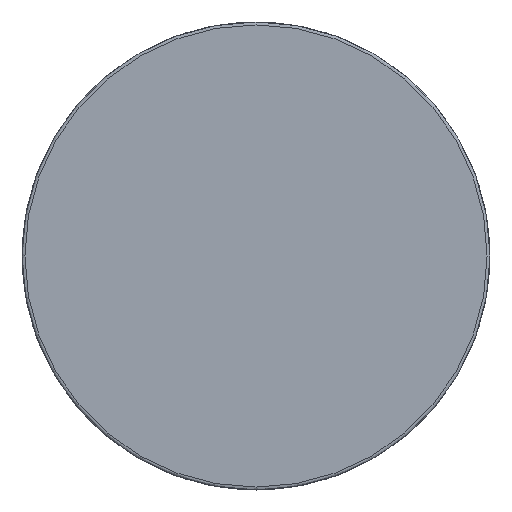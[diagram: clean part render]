
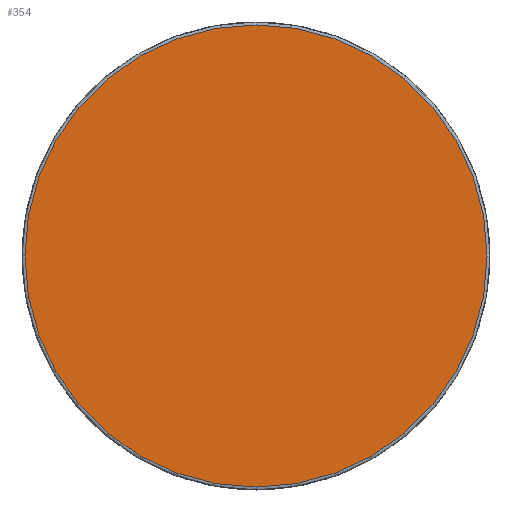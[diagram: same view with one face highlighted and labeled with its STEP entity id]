
A CAD part, left-side view. The second image highlights one B-rep face of the part: STEP entity #354.
In plain terms, the highlighted planar face has unit normal (-1, 0, 0).
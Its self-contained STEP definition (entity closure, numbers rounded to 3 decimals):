
#316=CARTESIAN_POINT('',(-434.562,-488.109,18.188));
#317=VERTEX_POINT('',#316);
#325=CARTESIAN_POINT('',(-434.562,-488.109,-60.812));
#326=VERTEX_POINT('',#325);
#327=CARTESIAN_POINT('',(-434.562,-488.109,-21.312));
#328=DIRECTION('',(-1.0,0.0,0.0));
#329=DIRECTION('',(0.0,0.0,1.0));
#330=AXIS2_PLACEMENT_3D('',#327,#328,#329);
#331=CIRCLE('',#330,39.5);
#332=EDGE_CURVE('',#326,#317,#331,.T.);
#334=CARTESIAN_POINT('',(-434.562,-488.109,-21.312));
#335=DIRECTION('',(-1.0,0.0,0.0));
#336=DIRECTION('',(0.0,0.0,1.0));
#337=AXIS2_PLACEMENT_3D('',#334,#335,#336);
#338=CIRCLE('',#337,39.5);
#339=EDGE_CURVE('',#317,#326,#338,.T.);
#345=CARTESIAN_POINT('',(-434.562,-567.109,57.688));
#346=DIRECTION('',(-1.0,0.0,0.0));
#347=DIRECTION('',(0.0,1.0,0.0));
#348=AXIS2_PLACEMENT_3D('',#345,#346,#347);
#349=PLANE('',#348);
#350=ORIENTED_EDGE('',*,*,#339,.T.);
#351=ORIENTED_EDGE('',*,*,#332,.T.);
#352=EDGE_LOOP('',(#350,#351));
#353=FACE_OUTER_BOUND('',#352,.T.);
#354=ADVANCED_FACE('',(#353),#349,.T.);
